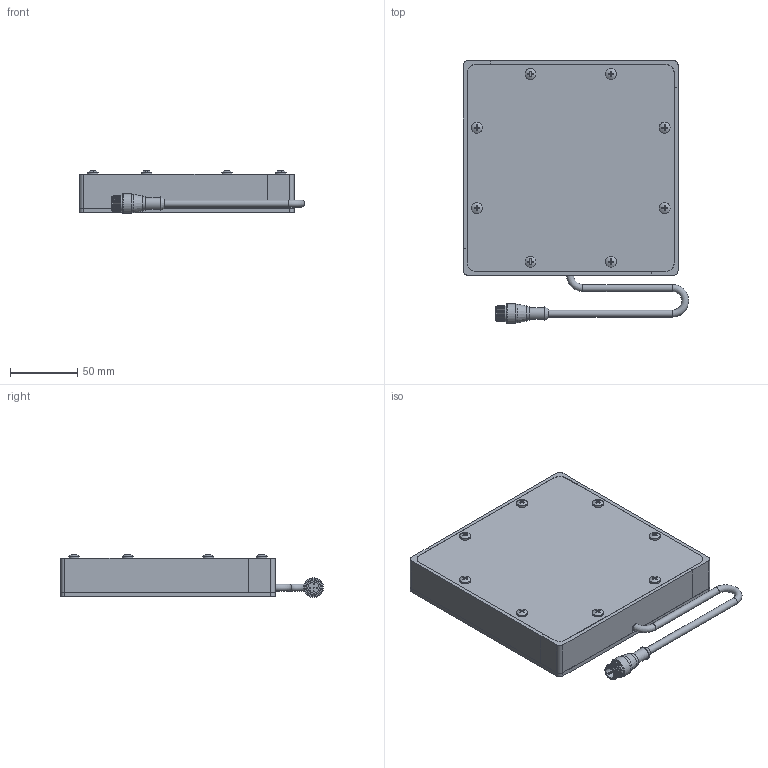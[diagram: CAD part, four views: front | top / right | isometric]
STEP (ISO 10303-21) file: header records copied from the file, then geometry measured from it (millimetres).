
FILE_DESCRIPTION (( 'STEP AP214' ), '1' );
FILE_NAME ('BL120120.STEP', '2026-06-17T01:44:05', ( '' ), ( '' ), 'SwSTEP 2.0', 'SolidWorks 2025', '' );
FILE_SCHEMA (( 'AUTOMOTIVE_DESIGN' ));
Length unit declared in the file: millimetre
Products named in the file (11): WD-Xmm x Xmm_120x120; Hex Standoff .75 x 8-32; SC Pigtail Complete 18_5pin; M12 Connector 4,5 and 8 pin_RS4.5T; 8-32 x .375 Nylon Screw_.375" 94611A192; 8-32 x 0.5 FHCS (92210A194)_92210A194; MC Pigtail 24_90 then 180 short lead out; BL120120; Backplate Xmm x Xmm_120x120; 120 to 480 x 25mm rails_120mm; 120 to 480 x 25mm rails_120mm no CG
Assembly tree (33 placements, depth 3):
  BL120120
    Backplate Xmm x Xmm_120x120
    120 to 480 x 25mm rails_120mm
    120 to 480 x 25mm rails_120mm no CG  x3
    WD-Xmm x Xmm_120x120
    SC Pigtail Complete 18_5pin
      MC Pigtail 24_90 then 180 short lead out
      M12 Connector 4,5 and 8 pin_RS4.5T
    Hex Standoff .75 x 8-32  x8
    8-32 x 0.5 FHCS (92210A194)_92210A194  x8
    8-32 x .375 Nylon Screw_.375" 94611A192  x8
Bounding box: 167.86 x 195.91 x 31.93 mm (x, y, z)
Volume: 411956.9 mm3; surface area: 185585.5 mm2
Topology: 32 solids, 32 shells, 932 faces, 2295 edges, 1461 vertices
Faces by surface type: plane 358, bspline 208, cylinder 185, cone 147, torus 21, sphere 13
Full cylindrical faces by diameter (mm): 0.762 x5, 1 x1, 3.454 x8, 4.2 x4, 4.496 x24, 5.207 x3, 6.35 x8, 6.858 x8, 8.128 x8, 8.382 x1, 8.636 x1, 9.119 x8, 10.16 x1, 10.541 x1, 11.938 x1, 13.716 x2, 14.732 x1
Entity records: 12816 total; most frequent: CARTESIAN_POINT 5256, DIRECTION 1342, ORIENTED_EDGE 1146, EDGE_CURVE 573, AXIS2_PLACEMENT_3D 554, EDGE_LOOP 464, VERTEX_POINT 423, FACE_OUTER_BOUND 352
